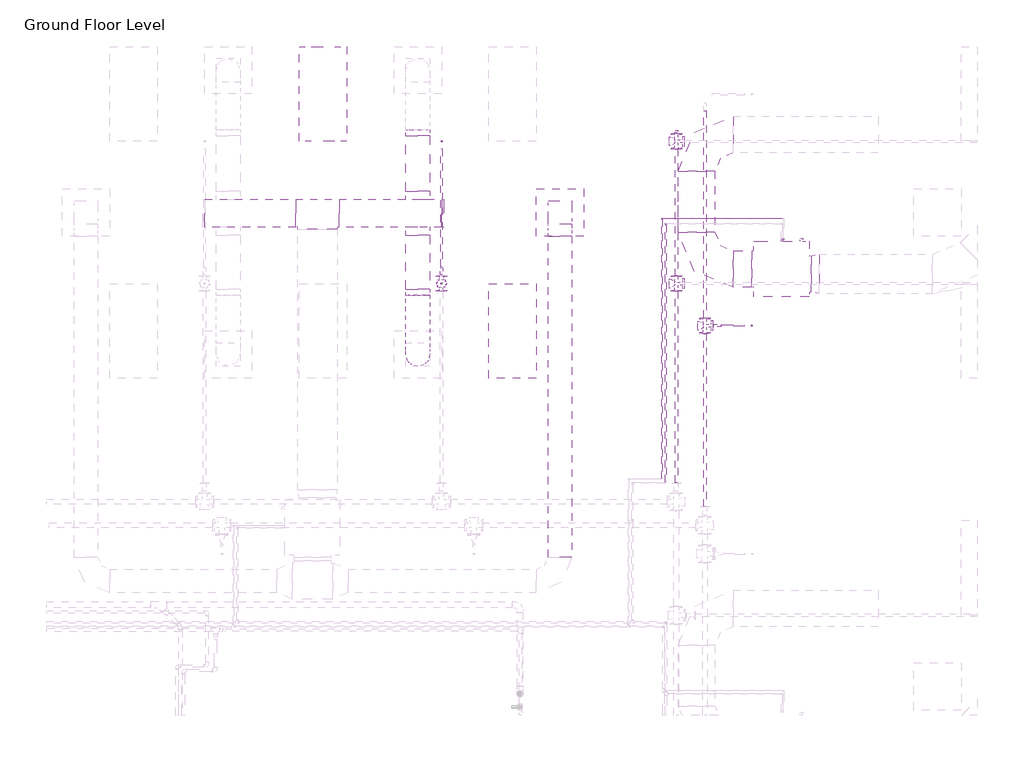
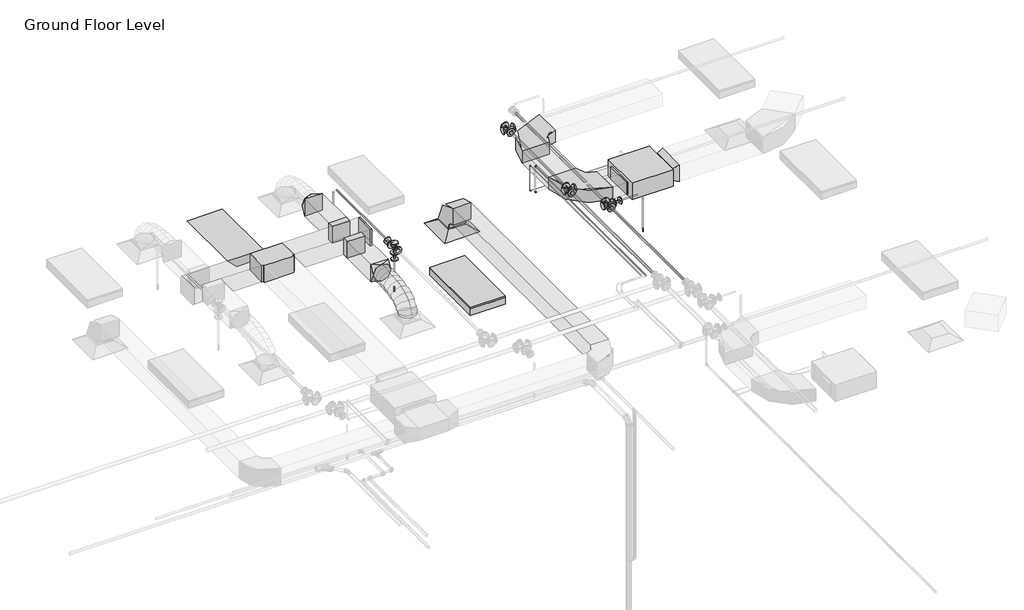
# One storey, part 71 of 74: 15 pipe segments, 11 pipe fittings, 10 duct fittings, 9 duct segments, 3 fire suppression terminals, 2 light fixtures, 1 air terminal, 1 proxy.
"""IFC4 building model written with IfcOpenShell, lengths in millimetres."""

from ifc_helpers import new_model, si_unit, point, frame, frame_2d, origin, place, context, project, spatial, polyline, circle_curve, ellipse_curve, trimmed, segment, composite_curve, outline, extrude, transform, mapped, element, save
from ifc_brep_helpers import plane_surface, cylinder_surface, advanced_brep
from components import m_return_diffuser_600_x_600_face_300_x_300_connection_ff221211, fcu_daikin_iu_bad131e0, m_rectangular_elbow_radius_1_w_618da153, m_rectangular_elbow_radius_1_w_54c96895, m_rectangular_endcap_standard_eed78c44, m_rectangular_takeoff_standard_cb0ccb98, m_rectangular_takeoff_standard_2be5eba1, m_rectangular_tee_standard_9fc1ddf1, m_rectangular_transition_angle_45_degree_2b595dfe, m_rectangular_to_round_transition_angle_45_degree_641efff0, m_sprinkler_dry_pendent_hosted_15_mm_dry_pendent_9bda8e11, m_sprinkler_pendent_15_mm_pendent_06fcbd8e, m_emergency_recessed_lighting_fixture_600x1200_277_5b10b25d, m_troffer_light_parabolic_rectangular1_0600x1200mm_4_lamp_86473d4a, m_elbow_generic_standard_a088f956, m_elbow_generic_standard_2a704253, m_reducer_flanged_cs_class_150_standard_d42b2106, m_tee_round_base_flanged_cs_class_150_standard_7e5987a1

model = new_model("IFC4")

# Units and contexts
model_context = context("Model", 3, world=origin())
ifc_project = project(units=[si_unit("LENGTHUNIT", "METRE", prefix="MILLI")], contexts=[model_context])

# Site, building, storey
site = spatial("IfcSite", under=ifc_project)
building = spatial("IfcBuilding", under=site)
storey = spatial("IfcBuildingStorey", under=building, Name="Ground Floor Level", Elevation=900.0)

# Air terminal
placement = place(None, origin())
m_return_diffuser_600_x_600_face_300_x_300_connection_shape = m_return_diffuser_600_x_600_face_300_x_300_connection_ff221211(model_context)
element("IfcAirTerminal", 1, ObjectType="M_Return Diffuser : 600 x 600 Face 300 x 300 Connection", at=placement, inside=storey, context=model_context, shape_type="MappedRepresentation", body=[
    mapped(m_return_diffuser_600_x_600_face_300_x_300_connection_shape, transform((4162.7672395, 18735.2153534, 3650.0), x_axis=(1.0, 0.0, 0.0), y_axis=(0.0, 1.0, 0.0), z_axis=(0.0, 0.0, 1.0))),
])

# Proxy
fcu_daikin_iu_shape = fcu_daikin_iu_bad131e0(model_context)
element("IfcBuildingElementProxy", 2, Name="FCU-DAIKIN IU : 4.5kW, 230V/50Hz/1Ph", ObjectType="FCU-DAIKIN IU : 4.5kW, 230V/50Hz/1Ph", at=placement, inside=storey, context=model_context, shape_type="MappedRepresentation", body=[
    mapped(fcu_daikin_iu_shape, transform((6968.8139492, 18019.6779527, 3934.0932729), x_axis=(0.0, 1.0, 0.0), y_axis=(-1.0, 0.0, 0.0), z_axis=(0.0, 0.0, 1.0))),
])

# Duct fittings
m_rectangular_elbow_radius_1_w_shape = m_rectangular_elbow_radius_1_w_618da153(model_context)
element("IfcDuctFitting", 3, ObjectType="M_Rectangular Elbow - Radius : 1 W", at=placement, inside=storey, context=model_context, shape_type="MappedRepresentation", body=[
    mapped(m_rectangular_elbow_radius_1_w_shape, transform((4162.7672395, 18735.2153534, 4075.2872564), x_axis=(0.0, 0.0, 1.0), y_axis=(0.0, -1.0, 0.0), z_axis=(1.0, 0.0, 0.0))),
])
m_rectangular_elbow_radius_1_w_2_shape = m_rectangular_elbow_radius_1_w_54c96895(model_context)
element("IfcDuctFitting", 4, ObjectType="M_Rectangular Elbow - Radius : 1 W", at=placement, inside=storey, context=model_context, shape_type="MappedRepresentation", body=[
    mapped(m_rectangular_elbow_radius_1_w_2_shape, transform((5893.4139492, 18019.6779527, 4075.2932729), x_axis=(0.0, -1.0, 0.0), y_axis=(1.0, 0.0, 0.0), z_axis=(0.0, 0.0, 1.0))),
])
element("IfcDuctFitting", 5, ObjectType="M_Rectangular Elbow - Radius : 1 W", at=placement, inside=storey, context=model_context, shape_type="MappedRepresentation", body=[
    mapped(m_rectangular_elbow_radius_1_w_2_shape, transform((5893.4139492, 19719.6783949, 4075.2932729), x_axis=(-1.0, 0.0, 0.0), y_axis=(0.0, -1.0, 0.0), z_axis=(0.0, 0.0, 1.0))),
])
m_rectangular_endcap_standard_shape = m_rectangular_endcap_standard_eed78c44(model_context)
element("IfcDuctFitting", 6, ObjectType="M_Rectangular Endcap : Standard", at=placement, inside=storey, context=model_context, shape_type="MappedRepresentation", body=[
    mapped(m_rectangular_endcap_standard_shape, transform((2666.2672001, 18724.6783949, 4099.998205), x_axis=(0.9999999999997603, 0.0, -6.924715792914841e-07), y_axis=(0.0, 1.0000000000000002, 0.0), z_axis=(6.924715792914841e-07, 0.0, 0.9999999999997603))),
])
m_rectangular_takeoff_standard_shape = m_rectangular_takeoff_standard_cb0ccb98(model_context)
element("IfcDuctFitting", 7, ObjectType="M_Rectangular Takeoff : Standard", at=placement, inside=storey, context=model_context, shape_type="MappedRepresentation", body=[
    mapped(m_rectangular_takeoff_standard_shape, transform((2362.7672395, 18899.6783949, 4099.9984152), x_axis=(0.0, 1.0, 0.0), y_axis=(1.0, 0.0, 0.0), z_axis=(0.0, 0.0, -1.0))),
])
m_rectangular_takeoff_standard_2_shape = m_rectangular_takeoff_standard_2be5eba1(model_context)
element("IfcDuctFitting", 8, ObjectType="M_Rectangular Takeoff : Standard", at=placement, inside=storey, context=model_context, shape_type="MappedRepresentation", body=[
    mapped(m_rectangular_takeoff_standard_2_shape, transform((2362.7672395, 18549.6783949, 4099.9984152), x_axis=(0.0, -1.0, 0.0), y_axis=(-1.0, 0.0, 0.0), z_axis=(0.0, 0.0, -1.0))),
])
m_rectangular_tee_standard_shape = m_rectangular_tee_standard_9fc1ddf1(model_context)
element("IfcDuctFitting", 9, ObjectType="M_Rectangular Tee : Standard", at=placement, inside=storey, context=model_context, shape_type="MappedRepresentation", body=[
    mapped(m_rectangular_tee_standard_shape, transform((1091.2672395, 18724.6783949, 4099.9992264), x_axis=(0.999999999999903, 0.0, -4.406637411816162e-07), y_axis=(-1.704451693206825e-12, 0.9999999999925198, -3.867919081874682e-06), z_axis=(4.406637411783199e-07, 3.867919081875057e-06, 0.9999999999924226))),
])
m_rectangular_transition_angle_45_degree_shape = m_rectangular_transition_angle_45_degree_2b595dfe(model_context)
element("IfcDuctFitting", 10, ObjectType="M_Rectangular Transition - Angle : 45 Degree", at=placement, inside=storey, context=model_context, shape_type="MappedRepresentation", body=[
    mapped(m_rectangular_transition_angle_45_degree_shape, transform((7344.2139492, 17956.1779527, 4100.0057729), x_axis=(1.0, 0.0, 0.0), y_axis=(0.0, 1.0, 0.0), z_axis=(0.0, 0.0, 1.0))),
])
m_rectangular_to_round_transition_angle_45_degree_shape = m_rectangular_to_round_transition_angle_45_degree_641efff0(model_context)
element("IfcDuctFitting", 11, ObjectType="M_Rectangular to Round Transition - Angle : 45 Degree", at=placement, inside=storey, context=model_context, shape_type="MappedRepresentation", body=[
    mapped(m_rectangular_to_round_transition_angle_45_degree_shape, transform((2362.7672395, 19707.8778373, 4099.9984152), x_axis=(0.0, 1.0, 0.0), y_axis=(-1.0, 0.0, 0.0), z_axis=(0.0, 0.0, 1.0))),
])
element("IfcDuctFitting", 12, ObjectType="M_Rectangular to Round Transition - Angle : 45 Degree", at=placement, inside=storey, context=model_context, shape_type="MappedRepresentation", body=[
    mapped(m_rectangular_to_round_transition_angle_45_degree_shape, transform((2362.7672395, 17762.5528695, 4099.9984152), x_axis=(0.0, -1.0, 0.0), y_axis=(1.0, 0.0, 0.0), z_axis=(0.0, 0.0, 1.0))),
])

# Duct segments
element("IfcDuctSegment", 13, ObjectType="Flex - Round", at=placement, inside=storey, context=model_context, shape_type="AdvancedBrep", body=[
    advanced_brep(
    [(2512.7672395, 16935.2153534, 3826.6), (2362.7672395, 16785.2153534, 3826.6), (2212.7672395, 16935.2153534, 3826.6), (2362.7672395, 17085.2153534, 3826.6), (2512.7672395, 16935.2153534, 3857.937778), (2362.7672395, 16785.2153534, 3883.5810816), (2212.7672395, 16935.2153534, 3857.937778), (2362.7672395, 17085.2153534, 3832.2944744), (2512.7672395, 16952.2313299, 3906.2506017), (2362.7672395, 16818.4934508, 3978.0663351), (2212.7672395, 16952.2313299, 3906.2506017), (2362.7672395, 17085.969209, 3834.4348684), (2512.7672395, 16999.4153299, 3968.7112406), (2362.7672395, 16895.2097019, 4079.6208039), (2212.7672395, 16999.4153299, 3968.7112406), (2362.7672395, 17103.6209579, 3857.8016772), (2512.7672395, 17070.9714591, 4016.0697935), (2362.7672395, 17002.0378309, 4150.3237004), (2212.7672395, 17070.9714591, 4016.0697935), (2362.7672395, 17139.9050873, 3881.8158865), (2512.7672395, 17161.1038233, 4050.4141374), (2362.7672395, 17117.5435273, 4194.3363855), (2212.7672395, 17161.1038233, 4050.4141374), (2362.7672395, 17204.6641192, 3906.4918893), (2512.7672395, 17264.0165282, 4073.8321493), (2362.7672395, 17237.4560471, 4221.6227426), (2212.7672395, 17264.0165282, 4073.8321493), (2362.7672395, 17290.5770092, 3926.0415559), (2512.7672395, 17373.9136795, 4088.411706), (2362.7672395, 17358.7631621, 4237.7160075), (2212.7672395, 17373.9136795, 4088.411706), (2362.7672395, 17389.0641968, 3939.1074046), (2512.7672395, 17484.999383, 4096.2406846), (2362.7672395, 17477.4943543, 4246.0838166), (2212.7672395, 17484.999383, 4096.2406846), (2362.7672395, 17492.5044117, 3946.3975526), (2512.7672395, 17591.4777444, 4099.406962), (2362.7672395, 17588.7864273, 4249.3932362), (2212.7672395, 17591.4777444, 4099.406962), (2362.7672395, 17594.1690615, 3949.4206879), (2512.7672395, 17687.5528695, 4099.9984152), (2362.7672395, 17688.4762749, 3950.0012575), (2212.7672395, 17687.5528695, 4099.9984152), (2362.7672395, 17686.6294641, 4249.9955729)],
    [
        (0, 1, circle_curve(frame((2362.7672395, 16935.2153534, 3826.6), z_axis=(0.0, 0.0, -1.0), x_axis=(1.0, 0.0, 0.0)), 150.0)),
        (1, 2, circle_curve(frame((2362.7672395, 16935.2153534, 3826.6), z_axis=(0.0, 0.0, -1.0), x_axis=(1.0, 0.0, 0.0)), 150.0)),
        (2, 3, circle_curve(frame((2362.7672395, 16935.2153534, 3826.6), z_axis=(0.0, 0.0, -1.0), x_axis=(1.0, 0.0, 0.0)), 150.0)),
        (3, 0, circle_curve(frame((2362.7672395, 16935.2153534, 3826.6), z_axis=(0.0, 0.0, -1.0), x_axis=(1.0, 0.0, 0.0)), 150.0)),
        (0, 4),
        (4, 5, ellipse_curve(frame((2362.7672395, 16935.2153534, 3857.937778), z_axis=(0.0, -0.16851066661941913, -0.9856998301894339), x_axis=(0.0, 0.9856998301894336, -0.16851066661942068)), 152.1761447, 150.0)),
        (5, 1),
        (5, 6, ellipse_curve(frame((2362.7672395, 16935.2153534, 3857.937778), z_axis=(0.0, -0.16851066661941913, -0.9856998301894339), x_axis=(0.0, 0.9856998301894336, -0.16851066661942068)), 152.1761447, 150.0)),
        (6, 2),
        (6, 7, ellipse_curve(frame((2362.7672395, 16935.2153534, 3857.937778), z_axis=(0.0, -0.16851066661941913, -0.9856998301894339), x_axis=(0.0, 0.9856998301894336, -0.16851066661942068)), 152.1761447, 150.0)),
        (7, 3),
        (7, 4, ellipse_curve(frame((2362.7672395, 16935.2153534, 3857.937778), z_axis=(0.0, -0.16851066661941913, -0.9856998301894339), x_axis=(0.0, 0.9856998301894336, -0.16851066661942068)), 152.1761447, 150.0)),
        (4, 8),
        (8, 9, ellipse_curve(frame((2362.7672395, 16952.2313299, 3906.2506017), z_axis=(0.0, -0.4730936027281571, -0.8810121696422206), x_axis=(0.0, 0.8810121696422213, -0.47309360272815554)), 151.8002631, 150.0)),
        (9, 5),
        (9, 10, ellipse_curve(frame((2362.7672395, 16952.2313299, 3906.2506017), z_axis=(0.0, -0.4730936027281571, -0.8810121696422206), x_axis=(0.0, 0.8810121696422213, -0.47309360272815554)), 151.8002631, 150.0)),
        (10, 6),
        (10, 11, ellipse_curve(frame((2362.7672395, 16952.2313299, 3906.2506017), z_axis=(0.0, -0.4730936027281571, -0.8810121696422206), x_axis=(0.0, 0.8810121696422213, -0.47309360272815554)), 151.8002631, 150.0)),
        (11, 7),
        (11, 8, ellipse_curve(frame((2362.7672395, 16952.2313299, 3906.2506017), z_axis=(0.0, -0.4730936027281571, -0.8810121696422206), x_axis=(0.0, 0.8810121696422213, -0.47309360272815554)), 151.8002631, 150.0)),
        (8, 12),
        (12, 13, ellipse_curve(frame((2362.7672395, 16999.4153299, 3968.7112406), z_axis=(0.0, -0.7287895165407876, -0.6847377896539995), x_axis=(0.0, 0.6847377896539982, -0.7287895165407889)), 152.1832584, 150.0)),
        (13, 9),
        (13, 14, ellipse_curve(frame((2362.7672395, 16999.4153299, 3968.7112406), z_axis=(0.0, -0.7287895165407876, -0.6847377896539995), x_axis=(0.0, 0.6847377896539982, -0.7287895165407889)), 152.1832584, 150.0)),
        (14, 10),
        (14, 15, ellipse_curve(frame((2362.7672395, 16999.4153299, 3968.7112406), z_axis=(0.0, -0.7287895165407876, -0.6847377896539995), x_axis=(0.0, 0.6847377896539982, -0.7287895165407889)), 152.1832584, 150.0)),
        (15, 11),
        (15, 12, ellipse_curve(frame((2362.7672395, 16999.4153299, 3968.7112406), z_axis=(0.0, -0.7287895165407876, -0.6847377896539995), x_axis=(0.0, 0.6847377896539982, -0.7287895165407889)), 152.1832584, 150.0)),
        (12, 16),
        (16, 17, ellipse_curve(frame((2362.7672395, 17070.9714591, 4016.0697935), z_axis=(0.0, -0.8895873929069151, -0.45676500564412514), x_axis=(0.0, 0.45676500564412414, -0.8895873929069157)), 150.9170521, 150.0)),
        (17, 13),
        (17, 18, ellipse_curve(frame((2362.7672395, 17070.9714591, 4016.0697935), z_axis=(0.0, -0.8895873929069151, -0.45676500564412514), x_axis=(0.0, 0.45676500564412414, -0.8895873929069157)), 150.9170521, 150.0)),
        (18, 14),
        (18, 19, ellipse_curve(frame((2362.7672395, 17070.9714591, 4016.0697935), z_axis=(0.0, -0.8895873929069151, -0.45676500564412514), x_axis=(0.0, 0.45676500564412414, -0.8895873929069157)), 150.9170521, 150.0)),
        (19, 15),
        (19, 16, ellipse_curve(frame((2362.7672395, 17070.9714591, 4016.0697935), z_axis=(0.0, -0.8895873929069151, -0.45676500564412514), x_axis=(0.0, 0.45676500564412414, -0.8895873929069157)), 150.9170521, 150.0)),
        (16, 20),
        (20, 21, ellipse_curve(frame((2362.7672395, 17161.1038233, 4050.4141374), z_axis=(0.0, -0.9571212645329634, -0.2896875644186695), x_axis=(0.0, 0.2896875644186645, -0.957121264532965)), 150.3699202, 150.0)),
        (21, 17),
        (21, 22, ellipse_curve(frame((2362.7672395, 17161.1038233, 4050.4141374), z_axis=(0.0, -0.9571212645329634, -0.2896875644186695), x_axis=(0.0, 0.2896875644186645, -0.957121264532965)), 150.3699202, 150.0)),
        (22, 18),
        (22, 23, ellipse_curve(frame((2362.7672395, 17161.1038233, 4050.4141374), z_axis=(0.0, -0.9571212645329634, -0.2896875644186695), x_axis=(0.0, 0.2896875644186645, -0.957121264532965)), 150.3699202, 150.0)),
        (23, 19),
        (23, 20, ellipse_curve(frame((2362.7672395, 17161.1038233, 4050.4141374), z_axis=(0.0, -0.9571212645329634, -0.2896875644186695), x_axis=(0.0, 0.2896875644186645, -0.957121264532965)), 150.3699202, 150.0)),
        (20, 24),
        (24, 25, ellipse_curve(frame((2362.7672395, 17264.0165282, 4073.8321493), z_axis=(0.0, -0.9842318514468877, -0.17688318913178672), x_axis=(0.0, 0.17688318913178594, -0.9842318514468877)), 150.1583119, 150.0)),
        (25, 21),
        (25, 26, ellipse_curve(frame((2362.7672395, 17264.0165282, 4073.8321493), z_axis=(0.0, -0.9842318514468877, -0.17688318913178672), x_axis=(0.0, 0.17688318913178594, -0.9842318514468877)), 150.1583119, 150.0)),
        (26, 22),
        (26, 27, ellipse_curve(frame((2362.7672395, 17264.0165282, 4073.8321493), z_axis=(0.0, -0.9842318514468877, -0.17688318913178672), x_axis=(0.0, 0.17688318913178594, -0.9842318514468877)), 150.1583119, 150.0)),
        (27, 23),
        (27, 24, ellipse_curve(frame((2362.7672395, 17264.0165282, 4073.8321493), z_axis=(0.0, -0.9842318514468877, -0.17688318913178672), x_axis=(0.0, 0.17688318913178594, -0.9842318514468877)), 150.1583119, 150.0)),
        (24, 28),
        (28, 29, ellipse_curve(frame((2362.7672395, 17373.9136795, 4088.411706), z_axis=(0.0, -0.9948909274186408, -0.10095564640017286), x_axis=(0.0, 0.10095564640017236, -0.9948909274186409)), 150.0710252, 150.0)),
        (29, 25),
        (29, 30, ellipse_curve(frame((2362.7672395, 17373.9136795, 4088.411706), z_axis=(0.0, -0.9948909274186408, -0.10095564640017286), x_axis=(0.0, 0.10095564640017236, -0.9948909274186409)), 150.0710252, 150.0)),
        (30, 26),
        (30, 31, ellipse_curve(frame((2362.7672395, 17373.9136795, 4088.411706), z_axis=(0.0, -0.9948909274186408, -0.10095564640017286), x_axis=(0.0, 0.10095564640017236, -0.9948909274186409)), 150.0710252, 150.0)),
        (31, 27),
        (31, 28, ellipse_curve(frame((2362.7672395, 17373.9136795, 4088.411706), z_axis=(0.0, -0.9948909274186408, -0.10095564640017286), x_axis=(0.0, 0.10095564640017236, -0.9948909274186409)), 150.0710252, 150.0)),
        (28, 32),
        (32, 33, ellipse_curve(frame((2362.7672395, 17484.999383, 4096.2406846), z_axis=(0.0, -0.9987480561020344, -0.05002319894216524), x_axis=(0.0, 0.0500231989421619, -0.9987480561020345)), 150.0309623, 150.0)),
        (33, 29),
        (33, 34, ellipse_curve(frame((2362.7672395, 17484.999383, 4096.2406846), z_axis=(0.0, -0.9987480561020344, -0.05002319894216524), x_axis=(0.0, 0.0500231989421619, -0.9987480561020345)), 150.0309623, 150.0)),
        (34, 30),
        (34, 35, ellipse_curve(frame((2362.7672395, 17484.999383, 4096.2406846), z_axis=(0.0, -0.9987480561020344, -0.05002319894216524), x_axis=(0.0, 0.0500231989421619, -0.9987480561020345)), 150.0309623, 150.0)),
        (35, 31),
        (35, 32, ellipse_curve(frame((2362.7672395, 17484.999383, 4096.2406846), z_axis=(0.0, -0.9987480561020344, -0.05002319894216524), x_axis=(0.0, 0.0500231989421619, -0.9987480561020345)), 150.0309623, 150.0)),
        (32, 36),
        (36, 37, ellipse_curve(frame((2362.7672395, 17591.4777444, 4099.406962), z_axis=(0.0, -0.99983904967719, -0.0179408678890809), x_axis=(0.0, 0.017940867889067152, -0.9998390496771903)), 150.0104184, 150.0)),
        (37, 33),
        (37, 38, ellipse_curve(frame((2362.7672395, 17591.4777444, 4099.406962), z_axis=(0.0, -0.99983904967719, -0.0179408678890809), x_axis=(0.0, 0.017940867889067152, -0.9998390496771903)), 150.0104184, 150.0)),
        (38, 34),
        (38, 39, ellipse_curve(frame((2362.7672395, 17591.4777444, 4099.406962), z_axis=(0.0, -0.99983904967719, -0.0179408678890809), x_axis=(0.0, 0.017940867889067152, -0.9998390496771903)), 150.0104184, 150.0)),
        (39, 35),
        (39, 36, ellipse_curve(frame((2362.7672395, 17591.4777444, 4099.406962), z_axis=(0.0, -0.99983904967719, -0.0179408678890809), x_axis=(0.0, 0.017940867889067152, -0.9998390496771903)), 150.0104184, 150.0)),
        (40, 41, circle_curve(frame((2362.7672395, 17687.5528695, 4099.9984152), z_axis=(0.0, 0.9999810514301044, 0.006156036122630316), x_axis=(1.0, 0.0, 0.0)), 150.0)),
        (41, 42, circle_curve(frame((2362.7672395, 17687.5528695, 4099.9984152), z_axis=(0.0, 0.9999810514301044, 0.006156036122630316), x_axis=(1.0, 0.0, 0.0)), 150.0)),
        (42, 43, circle_curve(frame((2362.7672395, 17687.5528695, 4099.9984152), z_axis=(0.0, 0.9999810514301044, 0.006156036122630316), x_axis=(1.0, 0.0, 0.0)), 150.0)),
        (43, 40, circle_curve(frame((2362.7672395, 17687.5528695, 4099.9984152), z_axis=(0.0, 0.9999810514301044, 0.006156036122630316), x_axis=(1.0, 0.0, 0.0)), 150.0)),
        (36, 40),
        (43, 37),
        (42, 38),
        (41, 39),
    ],
    [
        plane_surface(frame((2362.7672395, 16785.2153534, 3826.6), z_axis=(0.0, 0.0, -1.0), x_axis=(1.0, 0.0, 0.0))),
        cylinder_surface(frame((2362.7672395, 16935.2153534, 3826.6), z_axis=(0.0, 0.0, -1.0), x_axis=(1.0, 0.0, 0.0)), 150.0),
        cylinder_surface(frame((2362.7672395, 16935.2153534, 3857.937778), z_axis=(0.0, -0.33220187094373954, -0.943208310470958), x_axis=(1.0, 0.0, 0.0)), 150.0),
        cylinder_surface(frame((2362.7672395, 16952.2313299, 3906.2506017), z_axis=(0.0, -0.6027641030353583, -0.7979194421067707), x_axis=(1.0, 0.0, 0.0)), 150.0),
        cylinder_surface(frame((2362.7672395, 16999.4153299, 3968.7112406), z_axis=(0.0, -0.8339041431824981, -0.5519093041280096), x_axis=(1.0, 0.0, 0.0)), 150.0),
        cylinder_surface(frame((2362.7672395, 17070.9714591, 4016.0697935), z_axis=(0.0, -0.9344594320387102, -0.35606961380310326), x_axis=(1.0, 0.0, 0.0)), 150.0),
        cylinder_surface(frame((2362.7672395, 17161.1038233, 4050.4141374), z_axis=(0.0, -0.9750739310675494, -0.2218802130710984), x_axis=(1.0, 0.0, 0.0)), 150.0),
        cylinder_surface(frame((2362.7672395, 17264.0165282, 4073.8321493), z_axis=(0.0, -0.9913144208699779, -0.13151318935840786), x_axis=(1.0, 0.0, 0.0)), 150.0),
        cylinder_surface(frame((2362.7672395, 17373.9136795, 4088.411706), z_axis=(0.0, -0.9975257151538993, -0.07030254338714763), x_axis=(1.0, 0.0, 0.0)), 150.0),
        cylinder_surface(frame((2362.7672395, 17484.999383, 4096.2406846), z_axis=(0.0, -0.9995581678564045, -0.029723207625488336), x_axis=(1.0, 0.0, 0.0)), 150.0),
        plane_surface(frame((2362.7672395, 17686.6294641, 4249.9955729), z_axis=(0.0, 0.9999810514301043, 0.006156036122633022), x_axis=(1.0, 0.0, 0.0))),
        cylinder_surface(frame((2362.7672395, 17591.4777444, 4099.406962), z_axis=(0.0, -0.9999810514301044, -0.006156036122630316), x_axis=(1.0, 0.0, 0.0)), 150.0),
    ],
    [
        (0, [[1, 2, 3, 4]]),
        (1, [[-1, 5, 6, 7]]),
        (1, [[-2, -7, 8, 9]]),
        (1, [[-3, -9, 10, 11]]),
        (1, [[-4, -11, 12, -5]]),
        (2, [[-6, 13, 14, 15]]),
        (2, [[-8, -15, 16, 17]]),
        (2, [[-10, -17, 18, 19]]),
        (2, [[-12, -19, 20, -13]]),
        (3, [[-14, 21, 22, 23]]),
        (3, [[-16, -23, 24, 25]]),
        (3, [[-18, -25, 26, 27]]),
        (3, [[-20, -27, 28, -21]]),
        (4, [[-22, 29, 30, 31]]),
        (4, [[-24, -31, 32, 33]]),
        (4, [[-26, -33, 34, 35]]),
        (4, [[-28, -35, 36, -29]]),
        (5, [[-30, 37, 38, 39]]),
        (5, [[-32, -39, 40, 41]]),
        (5, [[-34, -41, 42, 43]]),
        (5, [[-36, -43, 44, -37]]),
        (6, [[-38, 45, 46, 47]]),
        (6, [[-40, -47, 48, 49]]),
        (6, [[-42, -49, 50, 51]]),
        (6, [[-44, -51, 52, -45]]),
        (7, [[-46, 53, 54, 55]]),
        (7, [[-48, -55, 56, 57]]),
        (7, [[-50, -57, 58, 59]]),
        (7, [[-52, -59, 60, -53]]),
        (8, [[-54, 61, 62, 63]]),
        (8, [[-56, -63, 64, 65]]),
        (8, [[-58, -65, 66, 67]]),
        (8, [[-60, -67, 68, -61]]),
        (9, [[-62, 69, 70, 71]]),
        (9, [[-64, -71, 72, 73]]),
        (9, [[-66, -73, 74, 75]]),
        (9, [[-68, -75, 76, -69]]),
        (10, [[77, 78, 79, 80]]),
        (11, [[-70, 81, -80, 82]]),
        (11, [[-72, -82, -79, 83]]),
        (11, [[-74, -83, -78, 84]]),
        (11, [[-76, -84, -77, -81]]),
    ],
),
])
element("IfcDuctSegment", 14, ObjectType="Radius Elbows / Taps", at=placement, inside=storey, context=model_context, shape_type="SweptSolid", body=[
    extrude(outline(polyline([(1366.2672395, 18549.6783949), (1366.2672395, 18899.6783949), (2666.2672001, 18899.6783949), (2666.2672001, 18549.6783949), (1366.2672395, 18549.6783949)])), frame((0.0, 0.0, 3949.9991052), z_axis=(0.0, 0.0, 1.0), x_axis=(1.0, 0.0, 0.0)), (0.0, 0.0, 1.0), 300.0),
])
element("IfcDuctSegment", 15, ObjectType="Radius Elbows / Taps", at=placement, inside=storey, context=model_context, shape_type="SweptSolid", body=[
    extrude(outline(polyline([(816.2672395, 18899.6783949), (816.2672395, 18549.6783949), (-337.2326293, 18549.6783949), (-337.2326293, 18899.6783949), (816.2672395, 18899.6783949)])), frame((0.0, 0.0, 3949.9993476), z_axis=(0.0, 0.0, 1.0), x_axis=(1.0, 0.0, 0.0)), (0.0, 0.0, 1.0), 300.0),
])
element("IfcDuctSegment", 16, ObjectType="Radius Elbows / Taps", at=placement, inside=storey, context=model_context, shape_type="SweptSolid", body=[
    extrude(outline(polyline([(4312.7672395, 14369.8153534), (4012.7672395, 14369.8153534), (4012.7672395, 18435.2153534), (4312.7672395, 18435.2153534), (4312.7672395, 14369.8153534)])), frame((0.0, 0.0, 3925.2872564), z_axis=(0.0, 0.0, 1.0), x_axis=(1.0, 0.0, 0.0)), (0.0, 0.0, 1.0), 300.0),
])
element("IfcDuctSegment", 17, ObjectType="Radius Elbows / Taps", at=placement, inside=storey, context=model_context, shape_type="SweptSolid", body=[
    extrude(outline(polyline([(4312.7672395, 18585.2153534), (4012.7672395, 18585.2153534), (4012.7672395, 18885.2153534), (4312.7672395, 18885.2153534), (4312.7672395, 18585.2153534)])), frame((0.0, 0.0, 3751.6), z_axis=(0.0, 0.0, 1.0), x_axis=(1.0, 0.0, 0.0)), (0.0, 0.0, 1.0), 23.6872564),
])
element("IfcDuctSegment", 18, ObjectType="Radius Elbows / Taps", at=placement, inside=storey, context=model_context, shape_type="SweptSolid", body=[
    extrude(outline(polyline([(6593.4139492, 18250.6154527), (6593.4139492, 17788.7404527), (6355.2889492, 17788.7404527), (6355.2889492, 18250.6154527), (6593.4139492, 18250.6154527)])), frame((0.0, 0.0, 3968.1432729), z_axis=(0.0, 0.0, 1.0), x_axis=(1.0, 0.0, 0.0)), (0.0, 0.0, 1.0), 214.3),
])
element("IfcDuctSegment", 19, ObjectType="Radius Elbows / Taps", at=placement, inside=storey, context=model_context, shape_type="SweptSolid", body=[
    extrude(outline(polyline([(6124.3514492, 18481.5529527), (5662.4764492, 18481.5529527), (5662.4764492, 19257.8033949), (6124.3514492, 19257.8033949), (6124.3514492, 18481.5529527)])), frame((0.0, 0.0, 3968.1432729), z_axis=(0.0, 0.0, 1.0), x_axis=(1.0, 0.0, 0.0)), (0.0, 0.0, 1.0), 214.3),
])
element("IfcDuctSegment", 20, ObjectType="Radius Elbows / Taps", at=placement, inside=storey, context=model_context, shape_type="SweptSolid", body=[
    extrude(outline(polyline([(2512.7672395, 19001.2783949), (2212.7672395, 19001.2783949), (2212.7672395, 19707.8778373), (2512.7672395, 19707.8778373), (2512.7672395, 19001.2783949)])), frame((0.0, 0.0, 3949.9984152), z_axis=(0.0, 0.0, 1.0), x_axis=(1.0, 0.0, 0.0)), (0.0, 0.0, 1.0), 300.0),
])
element("IfcDuctSegment", 21, ObjectType="Radius Elbows / Taps", at=placement, inside=storey, context=model_context, shape_type="SweptSolid", body=[
    extrude(outline(polyline([(2212.7672395, 18448.0783949), (2512.7672395, 18448.0783949), (2512.7672395, 17762.5528695), (2212.7672395, 17762.5528695), (2212.7672395, 18448.0783949)])), frame((0.0, 0.0, 3949.9984152), z_axis=(0.0, 0.0, 1.0), x_axis=(1.0, 0.0, 0.0)), (0.0, 0.0, 1.0), 300.0),
])

# Fire suppression terminals
m_sprinkler_dry_pendent_hosted_15_mm_dry_pendent_shape = m_sprinkler_dry_pendent_hosted_15_mm_dry_pendent_9bda8e11(model_context)
element("IfcFireSuppressionTerminal", 22, ObjectType="M_Sprinkler - Dry - Pendent - Hosted : 15 mm Dry Pendent", at=placement, inside=storey, context=model_context, shape_type="MappedRepresentation", body=[
    mapped(m_sprinkler_dry_pendent_hosted_15_mm_dry_pendent_shape, transform((2662.7672395, 19635.2153534, 3650.0), x_axis=(1.0, 0.0, 0.0), y_axis=(0.0, -1.0, 0.0), z_axis=(0.0, 0.0, -1.0))),
])
element("IfcFireSuppressionTerminal", 23, ObjectType="M_Sprinkler - Dry - Pendent - Hosted : 15 mm Dry Pendent", at=placement, inside=storey, context=model_context, shape_type="MappedRepresentation", body=[
    mapped(m_sprinkler_dry_pendent_hosted_15_mm_dry_pendent_shape, transform((2662.7672395, 17835.2153534, 3650.0), x_axis=(1.0, 0.0, 0.0), y_axis=(0.0, -1.0, 0.0), z_axis=(0.0, 0.0, -1.0))),
])
m_sprinkler_pendent_15_mm_pendent_shape = m_sprinkler_pendent_15_mm_pendent_06fcbd8e(model_context)
element("IfcFireSuppressionTerminal", 24, ObjectType="M_Sprinkler - Pendent : 15 mm Pendent", at=placement, inside=storey, context=model_context, shape_type="MappedRepresentation", body=[
    mapped(m_sprinkler_pendent_15_mm_pendent_shape, transform((6592.5481019, 17301.8585069, 3650.0), x_axis=(1.0, 0.0, 0.0), y_axis=(0.0, 1.0, 0.0), z_axis=(0.0, 0.0, 1.0))),
])

# Light fixtures
m_emergency_recessed_lighting_fixture_600x1200_277_shape = m_emergency_recessed_lighting_fixture_600x1200_277_5b10b25d(model_context)
element("IfcLightFixture", 25, ObjectType="M_Emergency Recessed Lighting Fixture : 600x1200 - 277", at=placement, inside=storey, context=model_context, shape_type="MappedRepresentation", body=[
    mapped(m_emergency_recessed_lighting_fixture_600x1200_277_shape, transform((862.7672395, 19635.2153534, 3650.0), x_axis=(0.0, 1.0, 0.0), y_axis=(-1.0, 0.0, 0.0), z_axis=(0.0, 0.0, 1.0))),
])
m_troffer_light_parabolic_rectangular1_0600x1200mm_4_lamp_shape = m_troffer_light_parabolic_rectangular1_0600x1200mm_4_lamp_86473d4a(model_context)
element("IfcLightFixture", 26, ObjectType="M_Troffer Light - Parabolic Rectangular1 : 0600x1200mm(4 Lamp) - 277V 2", at=placement, inside=storey, context=model_context, shape_type="MappedRepresentation", body=[
    mapped(m_troffer_light_parabolic_rectangular1_0600x1200mm_4_lamp_shape, transform((3503.3013074, 17253.918855, 3650.0), x_axis=(0.0, 1.0, 0.0), y_axis=(-1.0, 0.0, 0.0), z_axis=(0.0, 0.0, 1.0))),
])

# Pipe fittings
m_elbow_generic_standard_shape = m_elbow_generic_standard_a088f956(model_context)
element("IfcPipeFitting", 27, ObjectType="M_Elbow - Generic : Standard", at=placement, inside=storey, context=model_context, shape_type="MappedRepresentation", body=[
    mapped(m_elbow_generic_standard_shape, transform((5501.7675988, 18590.9278534, 4380.0), x_axis=(0.0, 0.0, 1.0), y_axis=(0.0, -1.0, 0.0), z_axis=(1.0, 0.0, 0.0))),
])
element("IfcPipeFitting", 28, ObjectType="M_Elbow - Generic : Standard", at=placement, inside=storey, context=model_context, shape_type="MappedRepresentation", body=[
    mapped(m_elbow_generic_standard_shape, transform((5501.7675988, 18590.9278534, 3900.0), x_axis=(0.0, 0.0, -1.0), y_axis=(1.0, 0.0, 0.0), z_axis=(0.0, -1.0, 0.0))),
])
m_elbow_generic_standard_2_shape = m_elbow_generic_standard_2a704253(model_context)
element("IfcPipeFitting", 29, ObjectType="M_Elbow - Generic : Standard", at=placement, inside=storey, context=model_context, shape_type="MappedRepresentation", body=[
    mapped(m_elbow_generic_standard_2_shape, transform((5452.0810646, 18659.0778536, 4365.0), x_axis=(0.0, 1.0, 0.0), y_axis=(0.0, 0.0, -1.0), z_axis=(-1.0, 0.0, 0.0))),
])
element("IfcPipeFitting", 30, ObjectType="M_Elbow - Generic : Standard", at=placement, inside=storey, context=model_context, shape_type="MappedRepresentation", body=[
    mapped(m_elbow_generic_standard_2_shape, transform((5452.0810646, 18659.0778534, 3900.0), x_axis=(0.0, 0.0, -1.0), y_axis=(1.0, 0.0, 0.0), z_axis=(0.0, -1.0, 0.0))),
])
m_reducer_flanged_cs_class_150_standard_shape = m_reducer_flanged_cs_class_150_standard_d42b2106(model_context)
element("IfcPipeFitting", 31, ObjectType="M_Reducer - Flanged - CS - Class 150 : Standard", at=placement, inside=storey, context=model_context, shape_type="MappedRepresentation", body=[
    mapped(m_reducer_flanged_cs_class_150_standard_shape, transform((6097.7664057, 17301.8585069, 4290.0), x_axis=(1.0, 0.0, 0.0), y_axis=(0.0, 0.0, -1.0), z_axis=(0.0, 1.0, 0.0))),
])
element("IfcPipeFitting", 32, ObjectType="M_Reducer - Flanged - CS - Class 150 : Standard", at=placement, inside=storey, context=model_context, shape_type="MappedRepresentation", body=[
    mapped(m_reducer_flanged_cs_class_150_standard_shape, transform((2662.7672395, 17935.9239471, 4360.0), x_axis=(0.0, 1.0, 0.0), y_axis=(-1.0, 0.0, 0.0), z_axis=(0.0, 0.0, 1.0))),
])
element("IfcPipeFitting", 33, ObjectType="M_Reducer - Flanged - CS - Class 150 : Standard", at=placement, inside=storey, context=model_context, shape_type="MappedRepresentation", body=[
    mapped(m_reducer_flanged_cs_class_150_standard_shape, transform((2662.7672395, 17835.2153534, 4259.2914063), x_axis=(0.0, 0.0, -1.0), y_axis=(-1.0, 0.0, 0.0), z_axis=(0.0, 1.0, 0.0))),
])
m_tee_round_base_flanged_cs_class_150_standard_shape = m_tee_round_base_flanged_cs_class_150_standard_7e5987a1(model_context)
element("IfcPipeFitting", 34, ObjectType="M_Tee Round Base - Flanged - CS - Class 150 : Standard", at=placement, inside=storey, context=model_context, shape_type="MappedRepresentation", body=[
    mapped(m_tee_round_base_flanged_cs_class_150_standard_shape, transform((5997.057812, 17301.8585069, 4290.0), x_axis=(0.0, -1.0, 0.0), y_axis=(-1.0, 0.0, 0.0), z_axis=(0.0, 0.0, -1.0))),
])
element("IfcPipeFitting", 35, ObjectType="M_Tee Round Base - Flanged - CS - Class 150 : Standard", at=placement, inside=storey, context=model_context, shape_type="MappedRepresentation", body=[
    mapped(m_tee_round_base_flanged_cs_class_150_standard_shape, transform((2662.7672395, 17835.2153534, 4360.0), x_axis=(0.0, 1.0, 0.0), y_axis=(0.0, 0.0, 1.0), z_axis=(1.0, 0.0, 0.0))),
])
element("IfcPipeFitting", 36, ObjectType="M_Tee Round Base - Flanged - CS - Class 150 : Standard", at=placement, inside=storey, context=model_context, shape_type="MappedRepresentation", body=[
    mapped(m_tee_round_base_flanged_cs_class_150_standard_shape, transform((5635.869498, 19635.2153534, 4360.0), x_axis=(0.0, -1.0, 0.0), y_axis=(-1.0, 0.0, 0.0), z_axis=(0.0, 0.0, -1.0))),
])
element("IfcPipeFitting", 37, ObjectType="M_Tee Round Base - Flanged - CS - Class 150 : Standard", at=placement, inside=storey, context=model_context, shape_type="MappedRepresentation", body=[
    mapped(m_tee_round_base_flanged_cs_class_150_standard_shape, transform((5635.869498, 17835.2153534, 4360.0), x_axis=(0.0, -1.0, 0.0), y_axis=(-1.0, 0.0, 0.0), z_axis=(0.0, 0.0, -1.0))),
])

# Pipe segments
element("IfcPipeSegment", 38, ObjectType="Copper", at=placement, inside=storey, context=model_context, shape_type="SweptSolid", body=[
    extrude(outline(composite_curve([segment(trimmed(circle_curve(frame_2d((4365.0, 5452.0810646)), 3.35), [point((4365.0, 5455.4310646))], [point((4368.35, 5452.0810646))], False, "CARTESIAN"), True, "CONTINUOUS"), segment(trimmed(circle_curve(frame_2d((4365.0, 5452.0810646)), 3.35), [point((4368.35, 5452.0810646))], [point((4365.0, 5448.7310646))], False, "CARTESIAN"), True, "CONTINUOUS"), segment(trimmed(circle_curve(frame_2d((4365.0, 5452.0810646)), 3.35), [point((4365.0, 5448.7310646))], [point((4361.65, 5452.0810646))], False, "CARTESIAN"), True, "CONTINUOUS"), segment(trimmed(circle_curve(frame_2d((4365.0, 5452.0810646)), 3.35), [point((4361.65, 5452.0810646))], [point((4365.0, 5455.4310646))], False, "CARTESIAN"), True, "CONTINUOUS")], self_intersect=False)), frame((0.0, 15370.2153534, 0.0), z_axis=(0.0, 1.0, 0.0), x_axis=(0.0, 0.0, 1.0)), (0.0, 0.0, 1.0), 3277.7250002),
])
element("IfcPipeSegment", 39, ObjectType="Copper", at=placement, inside=storey, context=model_context, shape_type="SweptSolid", body=[
    extrude(outline(composite_curve([segment(trimmed(circle_curve(frame_2d((18659.0778536, 3900.0)), 3.3499998), [point((18662.4278534, 3900.0))], [point((18659.0778534, 3896.65))], False, "CARTESIAN"), True, "CONTINUOUS"), segment(trimmed(circle_curve(frame_2d((18659.0778536, 3900.0)), 3.35), [point((18659.0778534, 3896.65))], [point((18655.7278534, 3900.0))], False, "CARTESIAN"), True, "CONTINUOUS"), segment(trimmed(circle_curve(frame_2d((18659.0778536, 3900.0)), 3.3500002), [point((18655.7278534, 3900.0))], [point((18659.0778534, 3903.35))], False, "CARTESIAN"), True, "CONTINUOUS"), segment(trimmed(circle_curve(frame_2d((18659.0778536, 3900.0)), 3.35), [point((18659.0778534, 3903.35))], [point((18662.4278534, 3900.0))], False, "CARTESIAN"), True, "CONTINUOUS")], self_intersect=False)), frame((5463.2185646, 0.0, 0.0), z_axis=(1.0, 0.0, 0.0), x_axis=(0.0, 1.0, 0.0)), (0.0, 0.0, 1.0), 1519.4578847),
])
element("IfcPipeSegment", 40, ObjectType="Copper", at=placement, inside=storey, context=model_context, shape_type="SweptSolid", body=[
    extrude(outline(composite_curve([segment(trimmed(circle_curve(frame_2d((4380.0, 5501.7675988)), 6.5), [point((4380.0, 5495.2675988))], [point((4373.5, 5501.7675988))], False, "CARTESIAN"), True, "CONTINUOUS"), segment(trimmed(circle_curve(frame_2d((4380.0, 5501.7675988)), 6.5), [point((4373.5, 5501.7675988))], [point((4380.0, 5508.2675988))], False, "CARTESIAN"), True, "CONTINUOUS"), segment(trimmed(circle_curve(frame_2d((4380.0, 5501.7675988)), 6.5), [point((4380.0, 5508.2675988))], [point((4386.5, 5501.7675988))], False, "CARTESIAN"), True, "CONTINUOUS"), segment(trimmed(circle_curve(frame_2d((4380.0, 5501.7675988)), 6.5), [point((4386.5, 5501.7675988))], [point((4380.0, 5495.2675988))], False, "CARTESIAN"), True, "CONTINUOUS")], self_intersect=False)), frame((0.0, 15325.2153534, 0.0), z_axis=(0.0, 1.0, 0.0), x_axis=(0.0, 0.0, 1.0)), (0.0, 0.0, 1.0), 3251.425),
])
element("IfcPipeSegment", 41, ObjectType="Copper", at=placement, inside=storey, context=model_context, shape_type="SweptSolid", body=[
    extrude(outline(composite_curve([segment(trimmed(circle_curve(frame_2d((5452.0810646, 18659.0778536)), 3.35), [point((5455.4310646, 18659.0778536))], [point((5452.0810646, 18655.7278536))], False, "CARTESIAN"), True, "CONTINUOUS"), segment(trimmed(circle_curve(frame_2d((5452.0810646, 18659.0778536)), 3.35), [point((5452.0810646, 18655.7278536))], [point((5448.7310646, 18659.0778536))], False, "CARTESIAN"), True, "CONTINUOUS"), segment(trimmed(circle_curve(frame_2d((5452.0810646, 18659.0778536)), 3.35), [point((5448.7310646, 18659.0778536))], [point((5452.0810646, 18662.4278536))], False, "CARTESIAN"), True, "CONTINUOUS"), segment(trimmed(circle_curve(frame_2d((5452.0810646, 18659.0778536)), 3.35), [point((5452.0810646, 18662.4278536))], [point((5455.4310646, 18659.0778536))], False, "CARTESIAN"), True, "CONTINUOUS")], self_intersect=False)), frame((0.0, 0.0, 3911.1375), z_axis=(0.0, 0.0, 1.0), x_axis=(1.0, 0.0, 0.0)), (0.0, 0.0, 1.0), 442.725),
])
element("IfcPipeSegment", 42, ObjectType="Copper", at=placement, inside=storey, context=model_context, shape_type="SweptSolid", body=[
    extrude(outline(composite_curve([segment(trimmed(circle_curve(frame_2d((5501.7675988, 18590.9278534)), 6.5), [point((5495.2675988, 18590.9278534))], [point((5501.7675988, 18597.4278534))], False, "CARTESIAN"), True, "CONTINUOUS"), segment(trimmed(circle_curve(frame_2d((5501.7675988, 18590.9278534)), 6.5), [point((5501.7675988, 18597.4278534))], [point((5508.2675988, 18590.9278534))], False, "CARTESIAN"), True, "CONTINUOUS"), segment(trimmed(circle_curve(frame_2d((5501.7675988, 18590.9278534)), 6.5), [point((5508.2675988, 18590.9278534))], [point((5501.7675988, 18584.4278534))], False, "CARTESIAN"), True, "CONTINUOUS"), segment(trimmed(circle_curve(frame_2d((5501.7675988, 18590.9278534)), 6.5), [point((5501.7675988, 18584.4278534))], [point((5495.2675988, 18590.9278534))], False, "CARTESIAN"), True, "CONTINUOUS")], self_intersect=False)), frame((0.0, 0.0, 3914.2875), z_axis=(0.0, 0.0, 1.0), x_axis=(1.0, 0.0, 0.0)), (0.0, 0.0, 1.0), 451.425),
])
element("IfcPipeSegment", 43, ObjectType="Steel flanged", at=placement, inside=storey, context=model_context, shape_type="SweptSolid", body=[
    extrude(outline(composite_curve([segment(trimmed(circle_curve(frame_2d((6592.5481019, 17301.8585069)), 10.668), [point((6581.8801019, 17301.8585069))], [point((6592.5481019, 17312.5265069))], False, "CARTESIAN"), True, "CONTINUOUS"), segment(trimmed(circle_curve(frame_2d((6592.5481019, 17301.8585069)), 10.668), [point((6592.5481019, 17312.5265069))], [point((6603.2161019, 17301.8585069))], False, "CARTESIAN"), True, "CONTINUOUS"), segment(trimmed(circle_curve(frame_2d((6592.5481019, 17301.8585069)), 10.668), [point((6603.2161019, 17301.8585069))], [point((6592.5481019, 17291.1905069))], False, "CARTESIAN"), True, "CONTINUOUS"), segment(trimmed(circle_curve(frame_2d((6592.5481019, 17301.8585069)), 10.668), [point((6592.5481019, 17291.1905069))], [point((6581.8801019, 17301.8585069))], False, "CARTESIAN"), True, "CONTINUOUS")], self_intersect=False)), frame((0.0, 0.0, 3650.0), z_axis=(0.0, 0.0, 1.0), x_axis=(1.0, 0.0, 0.0)), (0.0, 0.0, 1.0), 546.9914062),
])
element("IfcPipeSegment", 44, ObjectType="Steel flanged", at=placement, inside=storey, context=model_context, shape_type="SweptSolid", body=[
    extrude(outline(composite_curve([segment(trimmed(circle_curve(frame_2d((17301.8585069, 4290.0)), 10.668), [point((17312.5265069, 4290.0))], [point((17301.8585069, 4279.332))], False, "CARTESIAN"), True, "CONTINUOUS"), segment(trimmed(circle_curve(frame_2d((17301.8585069, 4290.0)), 10.668), [point((17301.8585069, 4279.332))], [point((17291.1905069, 4290.0))], False, "CARTESIAN"), True, "CONTINUOUS"), segment(trimmed(circle_curve(frame_2d((17301.8585069, 4290.0)), 10.668), [point((17291.1905069, 4290.0))], [point((17301.8585069, 4300.668))], False, "CARTESIAN"), True, "CONTINUOUS"), segment(trimmed(circle_curve(frame_2d((17301.8585069, 4290.0)), 10.668), [point((17301.8585069, 4300.668))], [point((17312.5265069, 4290.0))], False, "CARTESIAN"), True, "CONTINUOUS")], self_intersect=False)), frame((6211.7664057, 0.0, 0.0), z_axis=(1.0, 0.0, 0.0), x_axis=(0.0, 1.0, 0.0)), (0.0, 0.0, 1.0), 287.7731025),
])
element("IfcPipeSegment", 45, ObjectType="Steel flanged", at=placement, inside=storey, context=model_context, shape_type="SweptSolid", body=[
    extrude(outline(composite_curve([segment(trimmed(circle_curve(frame_2d((4290.0, 5997.057812)), 16.7005), [point((4290.0, 6013.758312))], [point((4306.7005, 5997.057812))], False, "CARTESIAN"), True, "CONTINUOUS"), segment(trimmed(circle_curve(frame_2d((4290.0, 5997.057812)), 16.7005), [point((4306.7005, 5997.057812))], [point((4290.0, 5980.357312))], False, "CARTESIAN"), True, "CONTINUOUS"), segment(trimmed(circle_curve(frame_2d((4290.0, 5997.057812)), 16.7005), [point((4290.0, 5980.357312))], [point((4273.2995, 5997.057812))], False, "CARTESIAN"), True, "CONTINUOUS"), segment(trimmed(circle_curve(frame_2d((4290.0, 5997.057812)), 16.7005), [point((4273.2995, 5997.057812))], [point((4290.0, 6013.758312))], False, "CARTESIAN"), True, "CONTINUOUS")], self_intersect=False)), frame((0.0, 17402.5671007, 0.0), z_axis=(0.0, 1.0, 0.0), x_axis=(0.0, 0.0, 1.0)), (0.0, 0.0, 1.0), 2622.0638206),
])
element("IfcPipeSegment", 46, ObjectType="Steel flanged", at=placement, inside=storey, context=model_context, shape_type="SweptSolid", body=[
    extrude(outline(composite_curve([segment(trimmed(circle_curve(frame_2d((4290.0, 5997.057812)), 16.7005), [point((4290.0, 6013.758312))], [point((4306.7005, 5997.057812))], False, "CARTESIAN"), True, "CONTINUOUS"), segment(trimmed(circle_curve(frame_2d((4290.0, 5997.057812)), 16.7005), [point((4306.7005, 5997.057812))], [point((4290.0, 5980.357312))], False, "CARTESIAN"), True, "CONTINUOUS"), segment(trimmed(circle_curve(frame_2d((4290.0, 5997.057812)), 16.7005), [point((4290.0, 5980.357312))], [point((4273.2995, 5997.057812))], False, "CARTESIAN"), True, "CONTINUOUS"), segment(trimmed(circle_curve(frame_2d((4290.0, 5997.057812)), 16.7005), [point((4273.2995, 5997.057812))], [point((4290.0, 6013.758312))], False, "CARTESIAN"), True, "CONTINUOUS")], self_intersect=False)), frame((0.0, 15014.4681847, 0.0), z_axis=(0.0, 1.0, 0.0), x_axis=(0.0, 0.0, 1.0)), (0.0, 0.0, 1.0), 2186.6817284),
])
element("IfcPipeSegment", 47, ObjectType="Steel flanged", at=placement, inside=storey, context=model_context, shape_type="SweptSolid", body=[
    extrude(outline(composite_curve([segment(trimmed(circle_curve(frame_2d((2662.7672395, 19635.2153534)), 10.668), [point((2652.0992395, 19635.2153534))], [point((2662.7672395, 19645.8833534))], False, "CARTESIAN"), True, "CONTINUOUS"), segment(trimmed(circle_curve(frame_2d((2662.7672395, 19635.2153534)), 10.668), [point((2662.7672395, 19645.8833534))], [point((2673.4352395, 19635.2153534))], False, "CARTESIAN"), True, "CONTINUOUS"), segment(trimmed(circle_curve(frame_2d((2662.7672395, 19635.2153534)), 10.668), [point((2673.4352395, 19635.2153534))], [point((2662.7672395, 19624.5473534))], False, "CARTESIAN"), True, "CONTINUOUS"), segment(trimmed(circle_curve(frame_2d((2662.7672395, 19635.2153534)), 10.668), [point((2662.7672395, 19624.5473534))], [point((2652.0992395, 19635.2153534))], False, "CARTESIAN"), True, "CONTINUOUS")], self_intersect=False)), frame((0.0, 0.0, 3650.0), z_axis=(0.0, 0.0, 1.0), x_axis=(1.0, 0.0, 0.0)), (0.0, 0.0, 1.0), 616.9914063),
])
element("IfcPipeSegment", 48, ObjectType="Steel flanged", at=placement, inside=storey, context=model_context, shape_type="SweptSolid", body=[
    extrude(outline(composite_curve([segment(trimmed(circle_curve(frame_2d((2662.7672395, 17835.2153534)), 10.668), [point((2652.0992395, 17835.2153534))], [point((2662.7672395, 17845.8833534))], False, "CARTESIAN"), True, "CONTINUOUS"), segment(trimmed(circle_curve(frame_2d((2662.7672395, 17835.2153534)), 10.668), [point((2662.7672395, 17845.8833534))], [point((2673.4352395, 17835.2153534))], False, "CARTESIAN"), True, "CONTINUOUS"), segment(trimmed(circle_curve(frame_2d((2662.7672395, 17835.2153534)), 10.668), [point((2673.4352395, 17835.2153534))], [point((2662.7672395, 17824.5473534))], False, "CARTESIAN"), True, "CONTINUOUS"), segment(trimmed(circle_curve(frame_2d((2662.7672395, 17835.2153534)), 10.668), [point((2662.7672395, 17824.5473534))], [point((2652.0992395, 17835.2153534))], False, "CARTESIAN"), True, "CONTINUOUS")], self_intersect=False)), frame((0.0, 0.0, 3650.0), z_axis=(0.0, 0.0, 1.0), x_axis=(1.0, 0.0, 0.0)), (0.0, 0.0, 1.0), 495.2914062),
])
element("IfcPipeSegment", 49, ObjectType="Steel flanged", at=placement, inside=storey, context=model_context, shape_type="SweptSolid", body=[
    extrude(outline(composite_curve([segment(trimmed(circle_curve(frame_2d((4360.0, 2662.7672395)), 10.668), [point((4360.0, 2652.0992395))], [point((4349.332, 2662.7672395))], False, "CARTESIAN"), True, "CONTINUOUS"), segment(trimmed(circle_curve(frame_2d((4360.0, 2662.7672395)), 10.668), [point((4349.332, 2662.7672395))], [point((4360.0, 2673.4352395))], False, "CARTESIAN"), True, "CONTINUOUS"), segment(trimmed(circle_curve(frame_2d((4360.0, 2662.7672395)), 10.668), [point((4360.0, 2673.4352395))], [point((4370.668, 2662.7672395))], False, "CARTESIAN"), True, "CONTINUOUS"), segment(trimmed(circle_curve(frame_2d((4360.0, 2662.7672395)), 10.668), [point((4370.668, 2662.7672395))], [point((4360.0, 2652.0992395))], False, "CARTESIAN"), True, "CONTINUOUS")], self_intersect=False)), frame((0.0, 18049.9239471, 0.0), z_axis=(0.0, 1.0, 0.0), x_axis=(0.0, 0.0, 1.0)), (0.0, 0.0, 1.0), 1492.2828125),
])
element("IfcPipeSegment", 50, ObjectType="Steel flanged", at=placement, inside=storey, context=model_context, shape_type="SweptSolid", body=[
    extrude(outline(composite_curve([segment(trimmed(circle_curve(frame_2d((4360.0, 5635.869498)), 16.7005), [point((4360.0, 5652.569998))], [point((4376.7005, 5635.869498))], False, "CARTESIAN"), True, "CONTINUOUS"), segment(trimmed(circle_curve(frame_2d((4360.0, 5635.869498)), 16.7005), [point((4376.7005, 5635.869498))], [point((4360.0, 5619.168998))], False, "CARTESIAN"), True, "CONTINUOUS"), segment(trimmed(circle_curve(frame_2d((4360.0, 5635.869498)), 16.7005), [point((4360.0, 5619.168998))], [point((4343.2995, 5635.869498))], False, "CARTESIAN"), True, "CONTINUOUS"), segment(trimmed(circle_curve(frame_2d((4360.0, 5635.869498)), 16.7005), [point((4343.2995, 5635.869498))], [point((4360.0, 5652.569998))], False, "CARTESIAN"), True, "CONTINUOUS")], self_intersect=False)), frame((0.0, 19735.9239471, 0.0), z_axis=(0.0, 1.0, 0.0), x_axis=(0.0, 0.0, 1.0)), (0.0, 0.0, 1.0), 37.2770357),
])
element("IfcPipeSegment", 51, ObjectType="Steel flanged", at=placement, inside=storey, context=model_context, shape_type="SweptSolid", body=[
    extrude(outline(composite_curve([segment(trimmed(circle_curve(frame_2d((4360.0, 5635.869498)), 16.7005), [point((4360.0, 5652.569998))], [point((4376.7005, 5635.869498))], False, "CARTESIAN"), True, "CONTINUOUS"), segment(trimmed(circle_curve(frame_2d((4360.0, 5635.869498)), 16.7005), [point((4376.7005, 5635.869498))], [point((4360.0, 5619.168998))], False, "CARTESIAN"), True, "CONTINUOUS"), segment(trimmed(circle_curve(frame_2d((4360.0, 5635.869498)), 16.7005), [point((4360.0, 5619.168998))], [point((4343.2995, 5635.869498))], False, "CARTESIAN"), True, "CONTINUOUS"), segment(trimmed(circle_curve(frame_2d((4360.0, 5635.869498)), 16.7005), [point((4343.2995, 5635.869498))], [point((4360.0, 5652.569998))], False, "CARTESIAN"), True, "CONTINUOUS")], self_intersect=False)), frame((0.0, 17935.9239471, 0.0), z_axis=(0.0, 1.0, 0.0), x_axis=(0.0, 0.0, 1.0)), (0.0, 0.0, 1.0), 1598.5828125),
])
element("IfcPipeSegment", 52, ObjectType="Steel flanged", at=placement, inside=storey, context=model_context, shape_type="SweptSolid", body=[
    extrude(outline(composite_curve([segment(trimmed(circle_curve(frame_2d((4360.0, 5635.869498)), 16.7005), [point((4360.0, 5652.569998))], [point((4376.7005, 5635.869498))], False, "CARTESIAN"), True, "CONTINUOUS"), segment(trimmed(circle_curve(frame_2d((4360.0, 5635.869498)), 16.7005), [point((4376.7005, 5635.869498))], [point((4360.0, 5619.168998))], False, "CARTESIAN"), True, "CONTINUOUS"), segment(trimmed(circle_curve(frame_2d((4360.0, 5635.869498)), 16.7005), [point((4360.0, 5619.168998))], [point((4343.2995, 5635.869498))], False, "CARTESIAN"), True, "CONTINUOUS"), segment(trimmed(circle_curve(frame_2d((4360.0, 5635.869498)), 16.7005), [point((4343.2995, 5635.869498))], [point((4360.0, 5652.569998))], False, "CARTESIAN"), True, "CONTINUOUS")], self_intersect=False)), frame((0.0, 15314.2009828, 0.0), z_axis=(0.0, 1.0, 0.0), x_axis=(0.0, 0.0, 1.0)), (0.0, 0.0, 1.0), 2420.3057768),
])

save(model, "model.ifc")
